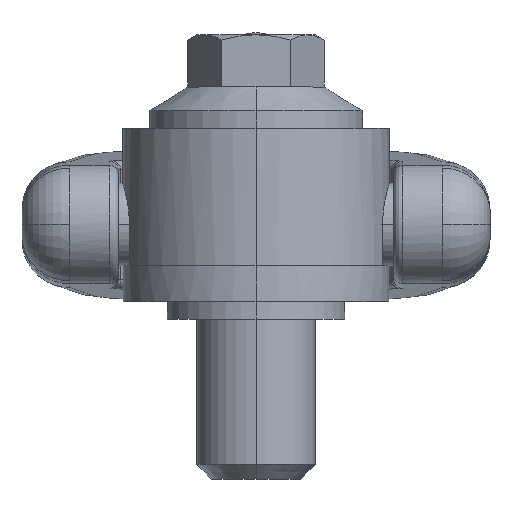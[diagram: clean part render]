
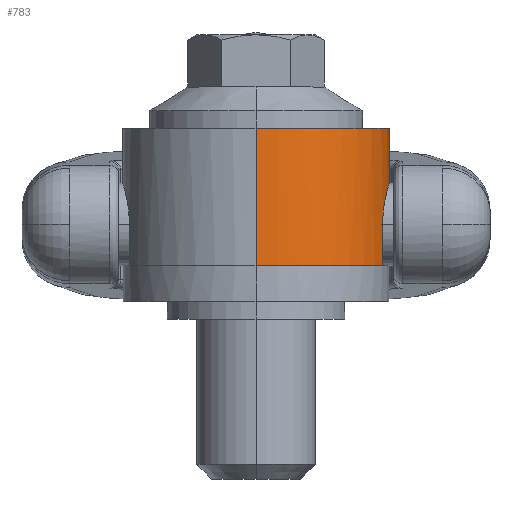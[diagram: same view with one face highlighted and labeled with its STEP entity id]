
A CAD part, top view. The second image highlights one B-rep face of the part: STEP entity #783.
In plain terms, the highlighted cylindrical face has radius 22.5 mm (diameter 45 mm), a partial arc.
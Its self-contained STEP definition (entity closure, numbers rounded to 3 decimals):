
#749 = EDGE_CURVE ( 'NONE', #779, #750, #5583, .T. ) ;
#750 = VERTEX_POINT ( 'NONE', #5584 ) ;
#766 = EDGE_CURVE ( 'NONE', #807, #767, #5622, .T. ) ;
#767 = VERTEX_POINT ( 'NONE', #5682 ) ;
#774 = EDGE_CURVE ( 'NONE', #750, #799, #5656, .T. ) ;
#776 = ORIENTED_EDGE ( 'NONE', *, *, #784, .T. ) ;
#779 = VERTEX_POINT ( 'NONE', #5617 ) ;
#780 = EDGE_CURVE ( 'NONE', #806, #779, #5674, .T. ) ;
#783 = ADVANCED_FACE ( 'NONE', ( #5705 ), #5704, .T. ) ;
#784 = EDGE_CURVE ( 'NONE', #807, #814, #5663, .T. ) ;
#799 = VERTEX_POINT ( 'NONE', #5635 ) ;
#805 = ORIENTED_EDGE ( 'NONE', *, *, #749, .T. ) ;
#806 = VERTEX_POINT ( 'NONE', #5619 ) ;
#807 = VERTEX_POINT ( 'NONE', #5618 ) ;
#808 = ORIENTED_EDGE ( 'NONE', *, *, #810, .F. ) ;
#809 = ORIENTED_EDGE ( 'NONE', *, *, #774, .T. ) ;
#810 = EDGE_CURVE ( 'NONE', #806, #814, #5607, .T. ) ;
#811 = EDGE_LOOP ( 'NONE', ( #815, #776, #808, #813, #805, #809, #2539, #2542 ) ) ;
#813 = ORIENTED_EDGE ( 'NONE', *, *, #780, .T. ) ;
#814 = VERTEX_POINT ( 'NONE', #5602 ) ;
#815 = ORIENTED_EDGE ( 'NONE', *, *, #766, .F. ) ;
#1276 = CARTESIAN_POINT ( 'NONE',  ( 0., 6., -22.5 ) ) ;
#1277 = DIRECTION ( 'NONE',  ( 0., -1., 0. ) ) ;
#1278 = VECTOR ( 'NONE', #1277, 1000. ) ;
#1279 = CARTESIAN_POINT ( 'NONE',  ( 0., 45., -22.5 ) ) ;
#1280 = LINE ( 'NONE', #1279, #1278 ) ;
#1281 = DIRECTION ( 'NONE',  ( 0., 0., -1. ) ) ;
#1282 = DIRECTION ( 'NONE',  ( 0., -1., 0. ) ) ;
#1283 = CARTESIAN_POINT ( 'NONE',  ( 0., 6., 0. ) ) ;
#1284 = AXIS2_PLACEMENT_3D ( 'NONE', #1283, #1282, #1281 ) ;
#1285 = CIRCLE ( 'NONE', #1284, 22.5 ) ;
#2538 = EDGE_CURVE ( 'NONE', #2541, #799, #1285, .T. ) ;
#2539 = ORIENTED_EDGE ( 'NONE', *, *, #2538, .F. ) ;
#2540 = EDGE_CURVE ( 'NONE', #767, #2541, #1280, .T. ) ;
#2541 = VERTEX_POINT ( 'NONE', #1276 ) ;
#2542 = ORIENTED_EDGE ( 'NONE', *, *, #2540, .F. ) ;
#5451 = CARTESIAN_POINT ( 'NONE',  ( 21.383, 13., -7. ) ) ;
#5452 = CARTESIAN_POINT ( 'NONE',  ( 21.383, 13.233, -7. ) ) ;
#5453 = CARTESIAN_POINT ( 'NONE',  ( 21.387, 13.465, -6.988 ) ) ;
#5454 = CARTESIAN_POINT ( 'NONE',  ( 21.402, 13.926, -6.942 ) ) ;
#5476 = CARTESIAN_POINT ( 'NONE',  ( 21.413, 14.157, -6.908 ) ) ;
#5477 = CARTESIAN_POINT ( 'NONE',  ( 21.457, 14.835, -6.771 ) ) ;
#5478 = CARTESIAN_POINT ( 'NONE',  ( 21.5, 15.271, -6.637 ) ) ;
#5479 = CARTESIAN_POINT ( 'NONE',  ( 21.605, 16.114, -6.286 ) ) ;
#5480 = CARTESIAN_POINT ( 'NONE',  ( 21.669, 16.523, -6.066 ) ) ;
#5481 = CARTESIAN_POINT ( 'NONE',  ( 21.804, 17.279, -5.559 ) ) ;
#5482 = CARTESIAN_POINT ( 'NONE',  ( 21.876, 17.629, -5.271 ) ) ;
#5483 = CARTESIAN_POINT ( 'NONE',  ( 21.986, 18.113, -4.787 ) ) ;
#5484 = CARTESIAN_POINT ( 'NONE',  ( 22.022, 18.267, -4.616 ) ) ;
#5485 = CARTESIAN_POINT ( 'NONE',  ( 22.093, 18.557, -4.263 ) ) ;
#5486 = CARTESIAN_POINT ( 'NONE',  ( 22.128, 18.692, -4.08 ) ) ;
#5487 = CARTESIAN_POINT ( 'NONE',  ( 22.194, 18.945, -3.703 ) ) ;
#5488 = CARTESIAN_POINT ( 'NONE',  ( 22.226, 19.062, -3.508 ) ) ;
#5545 = CARTESIAN_POINT ( 'NONE',  ( 22.286, 19.278, -3.105 ) ) ;
#5546 = CARTESIAN_POINT ( 'NONE',  ( 22.314, 19.377, -2.896 ) ) ;
#5547 = CARTESIAN_POINT ( 'NONE',  ( 22.391, 19.642, -2.258 ) ) ;
#5548 = CARTESIAN_POINT ( 'NONE',  ( 22.431, 19.775, -1.82 ) ) ;
#5549 = CARTESIAN_POINT ( 'NONE',  ( 22.486, 19.954, -0.92 ) ) ;
#5550 = CARTESIAN_POINT ( 'NONE',  ( 22.5, 20., -0.453 ) ) ;
#5551 = CARTESIAN_POINT ( 'NONE',  ( 22.5, 20., 0.467 ) ) ;
#5552 = CARTESIAN_POINT ( 'NONE',  ( 22.486, 19.954, 0.923 ) ) ;
#5553 = CARTESIAN_POINT ( 'NONE',  ( 22.444, 19.818, 1.601 ) ) ;
#5554 = CARTESIAN_POINT ( 'NONE',  ( 22.427, 19.761, 1.827 ) ) ;
#5555 = CARTESIAN_POINT ( 'NONE',  ( 22.387, 19.627, 2.267 ) ) ;
#5556 = CARTESIAN_POINT ( 'NONE',  ( 22.364, 19.549, 2.482 ) ) ;
#5557 = CARTESIAN_POINT ( 'NONE',  ( 22.288, 19.286, 3.113 ) ) ;
#5567 = CARTESIAN_POINT ( 'NONE',  ( 22.227, 19.071, 3.515 ) ) ;
#5568 = CARTESIAN_POINT ( 'NONE',  ( 22.093, 18.559, 4.279 ) ) ;
#5569 = CARTESIAN_POINT ( 'NONE',  ( 22.021, 18.27, 4.63 ) ) ;
#5570 = CARTESIAN_POINT ( 'NONE',  ( 21.913, 17.789, 5.11 ) ) ;
#5571 = CARTESIAN_POINT ( 'NONE',  ( 21.876, 17.621, 5.263 ) ) ;
#5572 = CARTESIAN_POINT ( 'NONE',  ( 21.804, 17.268, 5.553 ) ) ;
#5573 = CARTESIAN_POINT ( 'NONE',  ( 21.769, 17.082, 5.691 ) ) ;
#5574 = CARTESIAN_POINT ( 'NONE',  ( 21.667, 16.514, 6.072 ) ) ;
#5575 = CARTESIAN_POINT ( 'NONE',  ( 21.605, 16.113, 6.287 ) ) ;
#5576 = CARTESIAN_POINT ( 'NONE',  ( 21.526, 15.478, 6.551 ) ) ;
#5577 = CARTESIAN_POINT ( 'NONE',  ( 21.501, 15.26, 6.629 ) ) ;
#5578 = CARTESIAN_POINT ( 'NONE',  ( 21.459, 14.819, 6.764 ) ) ;
#5579 = CARTESIAN_POINT ( 'NONE',  ( 21.442, 14.596, 6.819 ) ) ;
#5580 = CARTESIAN_POINT ( 'NONE',  ( 21.399, 13.923, 6.954 ) ) ;
#5581 = CARTESIAN_POINT ( 'NONE',  ( 21.383, 13.465, 7. ) ) ;
#5582 = CARTESIAN_POINT ( 'NONE',  ( 21.383, 13., 7. ) ) ;
#5583 = B_SPLINE_CURVE_WITH_KNOTS ( 'NONE', 3,
 ( #5582, #5581, #5580, #5579, #5578, #5577, #5576, #5575, #5574, #5573, #5572, #5571, #5570, #5569, #5568, #5567, #5557, #5556, #5555, #5554, #5553, #5552, #5551, #5550, #5549, #5548, #5547, #5546, #5545, #5488, #5487, #5486, #5485, #5484, #5483, #5482, #5481, #5480, #5479, #5478, #5477, #5476, #5454, #5453, #5452, #5451 ),
 .UNSPECIFIED., .F., .F.,
 ( 4, 2, 2, 2, 2, 2, 2, 2, 2, 2, 2, 2, 2, 2, 2, 2, 2, 2, 2, 2, 2, 2, 4 ),
 ( 0., 0.001, 0.002, 0.003, 0.004, 0.005, 0.006, 0.007, 0.008, 0.009, 0.01, 0.011, 0.012, 0.014, 0.014, 0.015, 0.016, 0.017, 0.018, 0.019, 0.021, 0.021, 0.022 ),
 .UNSPECIFIED. ) ;
#5584 = CARTESIAN_POINT ( 'NONE',  ( 21.383, 13., -7. ) ) ;
#5602 = CARTESIAN_POINT ( 'NONE',  ( 0., 6., 22.5 ) ) ;
#5603 = DIRECTION ( 'NONE',  ( 0., 0., -1. ) ) ;
#5604 = DIRECTION ( 'NONE',  ( 0., -1., 0. ) ) ;
#5605 = CARTESIAN_POINT ( 'NONE',  ( 0., 6., 0. ) ) ;
#5606 = AXIS2_PLACEMENT_3D ( 'NONE', #5605, #5604, #5603 ) ;
#5607 = CIRCLE ( 'NONE', #5606, 22.5 ) ;
#5608 = DIRECTION ( 'NONE',  ( 0., 0., -1. ) ) ;
#5609 = DIRECTION ( 'NONE',  ( 0., -1., 0. ) ) ;
#5617 = CARTESIAN_POINT ( 'NONE',  ( 21.383, 13., 7. ) ) ;
#5618 = CARTESIAN_POINT ( 'NONE',  ( 0., 29.2, 22.5 ) ) ;
#5619 = CARTESIAN_POINT ( 'NONE',  ( 21.383, 6., 7. ) ) ;
#5622 = CIRCLE ( 'NONE', #5728, 22.5 ) ;
#5625 = DIRECTION ( 'NONE',  ( 0., -1., 0. ) ) ;
#5626 = VECTOR ( 'NONE', #5625, 1000. ) ;
#5627 = CARTESIAN_POINT ( 'NONE',  ( 21.383, 45., -7. ) ) ;
#5635 = CARTESIAN_POINT ( 'NONE',  ( 21.383, 6., -7. ) ) ;
#5656 = LINE ( 'NONE', #5627, #5626 ) ;
#5660 = DIRECTION ( 'NONE',  ( 0., -1., 0. ) ) ;
#5661 = VECTOR ( 'NONE', #5660, 1000. ) ;
#5662 = CARTESIAN_POINT ( 'NONE',  ( 0., 45., 22.5 ) ) ;
#5663 = LINE ( 'NONE', #5662, #5661 ) ;
#5664 = DIRECTION ( 'NONE',  ( 0., 0., 1. ) ) ;
#5665 = DIRECTION ( 'NONE',  ( 0., 1., 0. ) ) ;
#5672 = VECTOR ( 'NONE', #5706, 1000. ) ;
#5673 = CARTESIAN_POINT ( 'NONE',  ( 21.383, 45., 7. ) ) ;
#5674 = LINE ( 'NONE', #5673, #5672 ) ;
#5682 = CARTESIAN_POINT ( 'NONE',  ( 0., 29.2, -22.5 ) ) ;
#5702 = CARTESIAN_POINT ( 'NONE',  ( 0., 45., 0. ) ) ;
#5703 = AXIS2_PLACEMENT_3D ( 'NONE', #5702, #5609, #5608 ) ;
#5704 = CYLINDRICAL_SURFACE ( 'NONE', #5703, 22.5 ) ;
#5705 = FACE_OUTER_BOUND ( 'NONE', #811, .T. ) ;
#5706 = DIRECTION ( 'NONE',  ( 0., 1., 0. ) ) ;
#5727 = CARTESIAN_POINT ( 'NONE',  ( 0., 29.2, 0. ) ) ;
#5728 = AXIS2_PLACEMENT_3D ( 'NONE', #5727, #5665, #5664 ) ;
